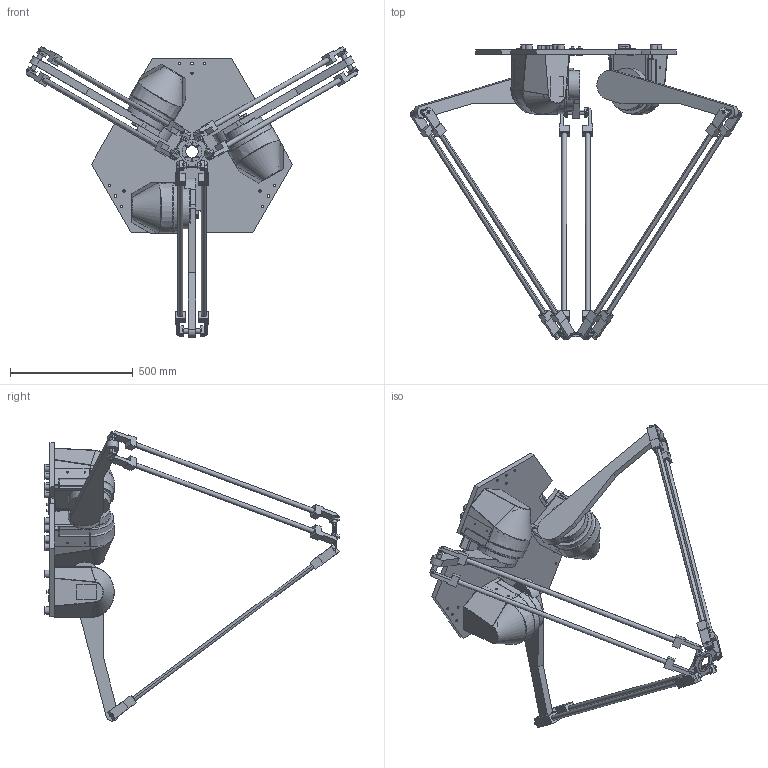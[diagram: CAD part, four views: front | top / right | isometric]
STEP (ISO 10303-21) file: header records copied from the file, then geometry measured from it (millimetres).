
FILE_DESCRIPTION((''),'2;1');
FILE_NAME('A2000507_ASM','2025-01-08T09:57:06',('SongJiHoon'),(''),'CREO PARAMETRIC BY PTC INC, 2023352','CREO PARAMETRIC BY PTC INC, 2023352','');
FILE_SCHEMA(('CONFIG_CONTROL_DESIGN'));
Length unit declared in the file: millimetre
Products named in the file (8): 3DSTEP-1; 3DSTEP-2; 3DSTEP-3; 3DSTEP-4; 3DSTEP-5; 3DSTEP-6; 3DSTEP-7_STANDARD_TYPE; A2000507_ASM
Assembly tree (20 placements, depth 2):
  A2000507_ASM
    3DSTEP-1
    3DSTEP-2  x3
    3DSTEP-3  x3
    3DSTEP-4  x3
    3DSTEP-5  x6
    3DSTEP-6  x3
    3DSTEP-7_STANDARD_TYPE
Bounding box: 1354.57 x 1200.06 x 1184.01 mm (x, y, z)
Volume: 35451868.2 mm3; surface area: 3528207.3 mm2
Topology: 20 solids, 36 shells, 786 faces, 2013 edges, 1336 vertices
Faces by surface type: plane 436, cylinder 311, bspline 24, cone 9, extrusion 6
Entity records: 13510 total; most frequent: CARTESIAN_POINT 3641, DIRECTION 2154, ORIENTED_EDGE 1874, EDGE_CURVE 969, AXIS2_PLACEMENT_3D 806, VERTEX_POINT 640, VECTOR 542, LINE 540
